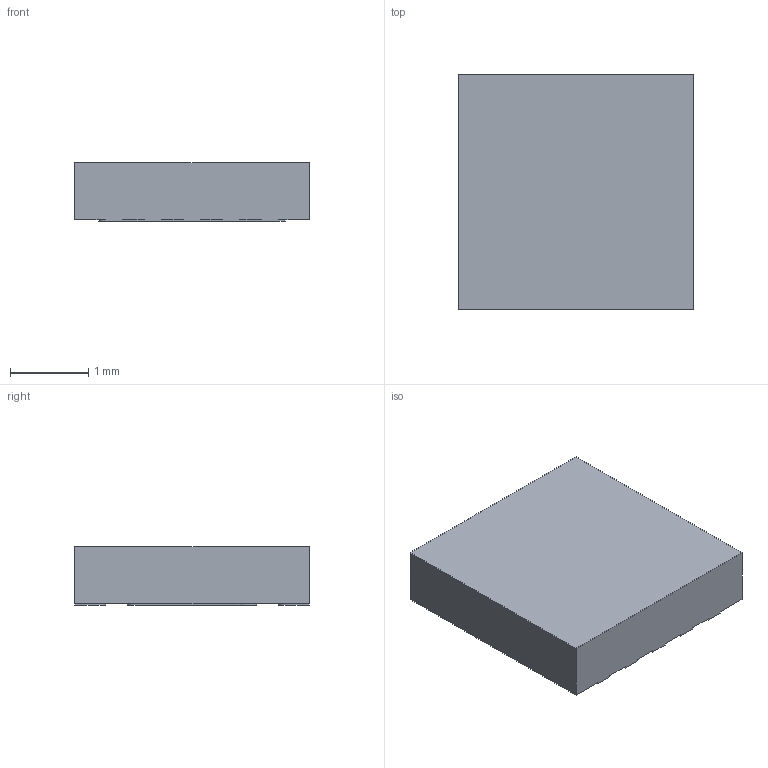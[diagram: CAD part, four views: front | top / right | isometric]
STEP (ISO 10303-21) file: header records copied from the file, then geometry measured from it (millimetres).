
FILE_DESCRIPTION (( 'STEP AP214' ), '1' );
FILE_NAME ('EJ.STEP', '2016-11-07T19:25:06', ( '' ), ( '' ), 'SwSTEP 2.0', 'SolidWorks 2014', '' );
FILE_SCHEMA (( 'AUTOMOTIVE_DESIGN' ));
Length unit declared in the file: millimetre
Products named in the file (2): EJ Mold; EJ
Assembly tree (1 placements, depth 2):
  EJ
    EJ Mold
Bounding box: 3 x 3 x 0.75 mm (x, y, z)
Volume: 6.7 mm3; surface area: 27.1 mm2
Topology: 1 solids, 1 shells, 57 faces, 162 edges, 108 vertices
Faces by surface type: plane 41, cylinder 16
Entity records: 1914 total; most frequent: CARTESIAN_POINT 331, ORIENTED_EDGE 324, DIRECTION 316, EDGE_CURVE 162, LINE 130, VECTOR 130, VERTEX_POINT 108, AXIS2_PLACEMENT_3D 93
